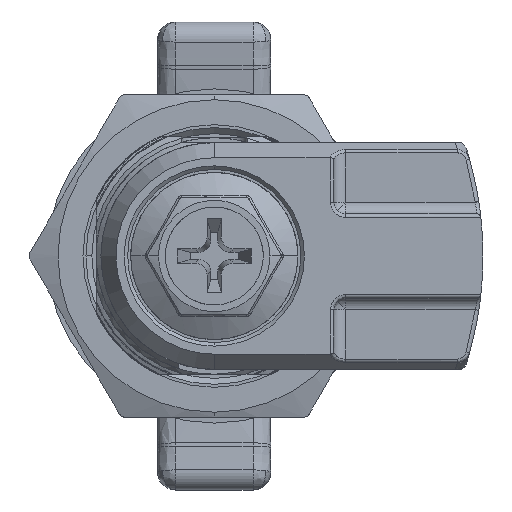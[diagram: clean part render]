
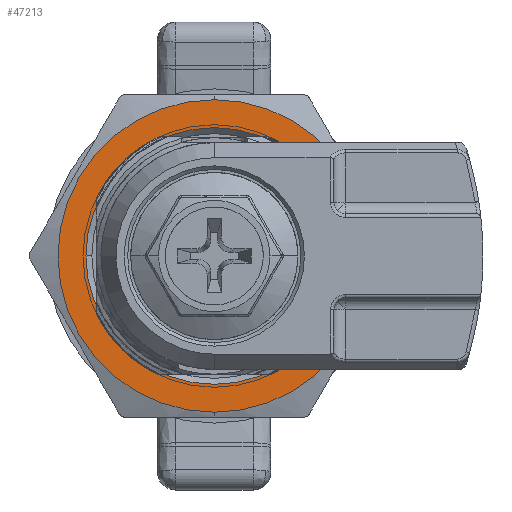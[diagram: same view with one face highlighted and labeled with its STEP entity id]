
A CAD part, front view. The second image highlights one B-rep face of the part: STEP entity #47213.
In plain terms, the highlighted planar face has unit normal (0, -1, 0) as drawn and (0, 0, -1) by its records, which use the part's own axes.
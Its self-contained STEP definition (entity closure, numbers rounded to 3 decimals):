
#254 = CARTESIAN_POINT ( 'NONE',  ( 0., 0., 0. ) ) ;
#964 = CARTESIAN_POINT ( 'NONE',  ( 0., 0., 0. ) ) ;
#2560 = AXIS2_PLACEMENT_3D ( 'NONE', #254, #29037, #68513 ) ;
#7255 = DIRECTION ( 'NONE',  ( 0., 0., 1. ) ) ;
#8098 = CIRCLE ( 'NONE', #23401, 13.088 ) ;
#15051 = DIRECTION ( 'NONE',  ( 0., -1., 0. ) ) ;
#17681 = CARTESIAN_POINT ( 'NONE',  ( 0., 0., 0. ) ) ;
#20913 = CARTESIAN_POINT ( 'NONE',  ( 0., 0., 0. ) ) ;
#22115 = DIRECTION ( 'NONE',  ( 0., -1., 0. ) ) ;
#22237 = CIRCLE ( 'NONE', #39912, 13.088 ) ;
#22417 = VERTEX_POINT ( 'NONE', #25449 ) ;
#23401 = AXIS2_PLACEMENT_3D ( 'NONE', #17681, #72624, #22115 ) ;
#25449 = CARTESIAN_POINT ( 'NONE',  ( -10.75, 0., 0. ) ) ;
#26171 = PLANE ( 'NONE',  #65723 ) ;
#26300 = AXIS2_PLACEMENT_3D ( 'NONE', #964, #7255, #51514 ) ;
#27496 = EDGE_CURVE ( 'NONE', #43448, #22417, #72230, .T. ) ;
#29037 = DIRECTION ( 'NONE',  ( 0., 0., 1. ) ) ;
#30694 = CARTESIAN_POINT ( 'NONE',  ( 0., 13.088, 0. ) ) ;
#31674 = ORIENTED_EDGE ( 'NONE', *, *, #70047, .T. ) ;
#39055 = CIRCLE ( 'NONE', #2560, 10.75 ) ;
#39599 = VERTEX_POINT ( 'NONE', #30694 ) ;
#39912 = AXIS2_PLACEMENT_3D ( 'NONE', #20913, #71080, #15051 ) ;
#42842 = ORIENTED_EDGE ( 'NONE', *, *, #46450, .F. ) ;
#43448 = VERTEX_POINT ( 'NONE', #46231 ) ;
#43488 = CARTESIAN_POINT ( 'NONE',  ( 0., 0., 0. ) ) ;
#44927 = VERTEX_POINT ( 'NONE', #66456 ) ;
#46231 = CARTESIAN_POINT ( 'NONE',  ( 10.75, 0., 0. ) ) ;
#46450 = EDGE_CURVE ( 'NONE', #44927, #39599, #8098, .T. ) ;
#47213 = ADVANCED_FACE ( 'NONE', ( #65643, #59727 ), #26171, .F. ) ;
#51514 = DIRECTION ( 'NONE',  ( 1., 0., 0. ) ) ;
#52978 = EDGE_CURVE ( 'NONE', #39599, #44927, #22237, .T. ) ;
#53861 = ORIENTED_EDGE ( 'NONE', *, *, #27496, .T. ) ;
#59727 = FACE_BOUND ( 'NONE', #69973, .T. ) ;
#65262 = DIRECTION ( 'NONE',  ( 0., 0., 1. ) ) ;
#65643 = FACE_OUTER_BOUND ( 'NONE', #65964, .T. ) ;
#65723 = AXIS2_PLACEMENT_3D ( 'NONE', #43488, #65262, #66004 ) ;
#65964 = EDGE_LOOP ( 'NONE', ( #42842, #68603 ) ) ;
#66004 = DIRECTION ( 'NONE',  ( 1., 0., 0. ) ) ;
#66456 = CARTESIAN_POINT ( 'NONE',  ( 0., -13.088, 0. ) ) ;
#68513 = DIRECTION ( 'NONE',  ( 1., 0., 0. ) ) ;
#68603 = ORIENTED_EDGE ( 'NONE', *, *, #52978, .F. ) ;
#69973 = EDGE_LOOP ( 'NONE', ( #31674, #53861 ) ) ;
#70047 = EDGE_CURVE ( 'NONE', #22417, #43448, #39055, .T. ) ;
#71080 = DIRECTION ( 'NONE',  ( 0., 0., 1. ) ) ;
#72230 = CIRCLE ( 'NONE', #26300, 10.75 ) ;
#72624 = DIRECTION ( 'NONE',  ( 0., 0., 1. ) ) ;
